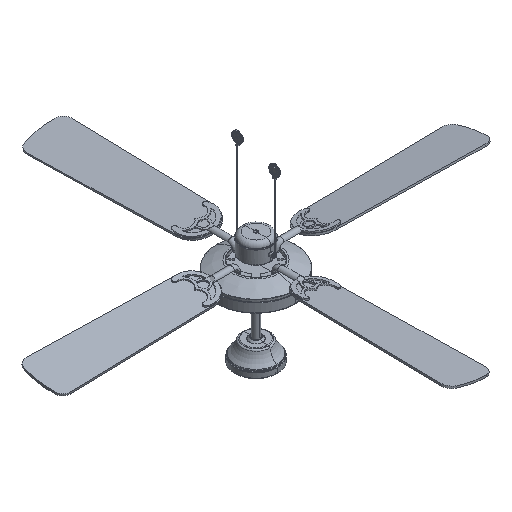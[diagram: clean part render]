
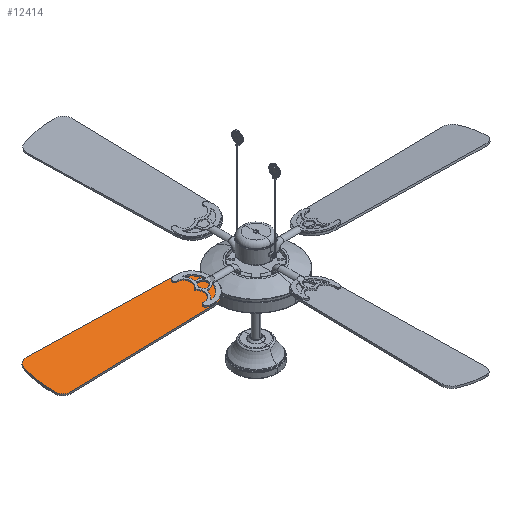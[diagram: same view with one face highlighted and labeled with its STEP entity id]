
A CAD part, isometric view. The second image highlights one B-rep face of the part: STEP entity #12414.
In plain terms, the highlighted planar face has unit normal (0, -0.174, 0.985).
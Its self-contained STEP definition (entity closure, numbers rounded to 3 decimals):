
#1549=PLANE('',#13262);
#1830=FACE_OUTER_BOUND('',#2604,.T.);
#2604=EDGE_LOOP('',(#8763,#8764,#8765,#8766,#8767,#8768));
#3438=CIRCLE('',#13250,262.591);
#3440=CIRCLE('',#13253,27.316);
#3442=CIRCLE('',#13257,58.688);
#3444=CIRCLE('',#13261,27.316);
#3899=LINE('',#17799,#4604);
#3903=LINE('',#17811,#4608);
#4604=VECTOR('',#14626,304.8);
#4608=VECTOR('',#14638,304.8);
#5328=VERTEX_POINT('',#17781);
#5330=VERTEX_POINT('',#17785);
#5332=VERTEX_POINT('',#17791);
#5334=VERTEX_POINT('',#17797);
#5336=VERTEX_POINT('',#17803);
#5338=VERTEX_POINT('',#17809);
#6661=EDGE_CURVE('',#5328,#5330,#3438,.T.);
#6664=EDGE_CURVE('',#5330,#5332,#3440,.T.);
#6667=EDGE_CURVE('',#5332,#5334,#3899,.T.);
#6670=EDGE_CURVE('',#5334,#5336,#3442,.T.);
#6673=EDGE_CURVE('',#5336,#5338,#3903,.T.);
#6675=EDGE_CURVE('',#5338,#5328,#3444,.T.);
#8763=ORIENTED_EDGE('',*,*,#6673,.T.);
#8764=ORIENTED_EDGE('',*,*,#6675,.T.);
#8765=ORIENTED_EDGE('',*,*,#6661,.T.);
#8766=ORIENTED_EDGE('',*,*,#6664,.T.);
#8767=ORIENTED_EDGE('',*,*,#6667,.T.);
#8768=ORIENTED_EDGE('',*,*,#6670,.T.);
#12414=ADVANCED_FACE('',(#1830),#1549,.F.);
#13250=AXIS2_PLACEMENT_3D('',#17787,#14613,#14614);
#13253=AXIS2_PLACEMENT_3D('',#17793,#14620,#14621);
#13257=AXIS2_PLACEMENT_3D('',#17805,#14632,#14633);
#13261=AXIS2_PLACEMENT_3D('',#17814,#14643,#14644);
#13262=AXIS2_PLACEMENT_3D('',#17815,#14645,#14646);
#14613=DIRECTION('center_axis',(0.,-0.174,
0.985));
#14614=DIRECTION('ref_axis',(0.,-0.985,-0.174));
#14620=DIRECTION('center_axis',(0.,-0.174,
0.985));
#14621=DIRECTION('ref_axis',(0.,0.985,0.174));
#14626=DIRECTION('',(1.,0.022,0.004));
#14632=DIRECTION('center_axis',(0.,-0.174,
0.985));
#14633=DIRECTION('ref_axis',(0.,-0.985,-0.174));
#14638=DIRECTION('',(-1.,0.022,0.004));
#14643=DIRECTION('center_axis',(0.,-0.174,
0.985));
#14644=DIRECTION('ref_axis',(0.,-0.985,-0.174));
#14645=DIRECTION('center_axis',(0.,0.174,
-0.985));
#14646=DIRECTION('ref_axis',(-1.,0.,0.));
#17781=CARTESIAN_POINT('',(-658.108,46.101,287.477));
#17785=CARTESIAN_POINT('',(-658.108,-44.712,271.465));
#17787=CARTESIAN_POINT('Origin',(-399.597,0.695,279.471));
#17791=CARTESIAN_POINT('',(-630.608,-66.883,267.555));
#17793=CARTESIAN_POINT('Origin',(-631.217,-39.988,272.297));
#17797=CARTESIAN_POINT('',(-185.289,-57.102,269.28));
#17799=CARTESIAN_POINT('',(-630.608,-66.883,267.555));
#17803=CARTESIAN_POINT('',(-185.289,58.491,289.662));
#17805=CARTESIAN_POINT('Origin',(-185.289,0.695,279.471));
#17809=CARTESIAN_POINT('',(-630.608,68.272,291.387));
#17811=CARTESIAN_POINT('',(-185.289,58.491,289.662));
#17814=CARTESIAN_POINT('Origin',(-631.217,41.378,286.644));
#17815=CARTESIAN_POINT('Origin',(-185.289,-57.102,269.28));
